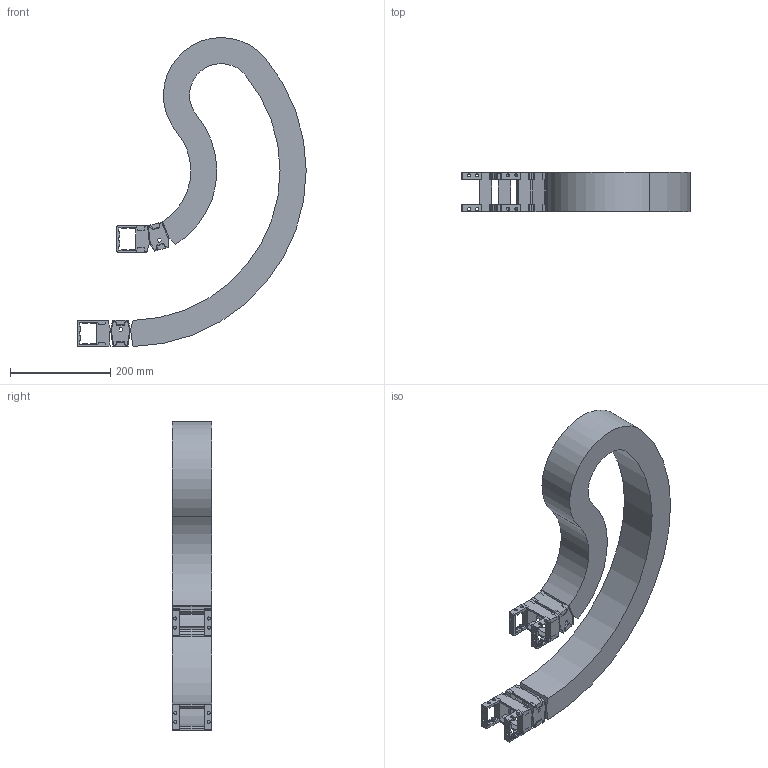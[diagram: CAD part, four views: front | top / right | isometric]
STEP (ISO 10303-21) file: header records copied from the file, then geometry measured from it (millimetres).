
FILE_DESCRIPTION( ( 'STEP AP214' ), '1' );
FILE_NAME( 'e:/temp/worker_58/temp/exporttempdir_5456_278_kybRv/format_0/RV040CRA788612070230340-00501890.0647.stp', '2021-07-26T14:22:34', ( 'License CC BY-ND 4.0' ), ( 'CADENAS' ), ' ', 'PARTsolutions', ' ' );
FILE_SCHEMA( ( 'AUTOMOTIVE_DESIGN { 1 0 10303 214 1 1 1 1 }' ) );
Length unit declared in the file: millimetre
Products named in the file (4): RV040CRA788612070230340-00501890.0647; _RV040CRA788612070230340-00501152.16-Chain; _RV040CR-SU-40-50; _RV040CR_FB-78
Assembly tree (5 placements, depth 2):
  RV040CRA788612070230340-00501890.0647
    _RV040CRA788612070230340-00501152.16-Chain
    _RV040CR-SU-40-50  x2
    _RV040CR_FB-78  x2
Bounding box: 455 x 78 x 615.45 mm (x, y, z)
Volume: 2862307.6 mm3; surface area: 646714 mm2
Topology: 5 solids, 5 shells, 692 faces, 2020 edges, 1332 vertices
Faces by surface type: plane 524, cylinder 168
Full cylindrical faces by diameter (mm): 6 x24
Entity records: 14556 total; most frequent: CARTESIAN_POINT 2056, ORIENTED_EDGE 2036, DIRECTION 1930, EDGE_CURVE 1018, LINE 830, VECTOR 830, VERTEX_POINT 676, AXIS2_PLACEMENT_3D 550
